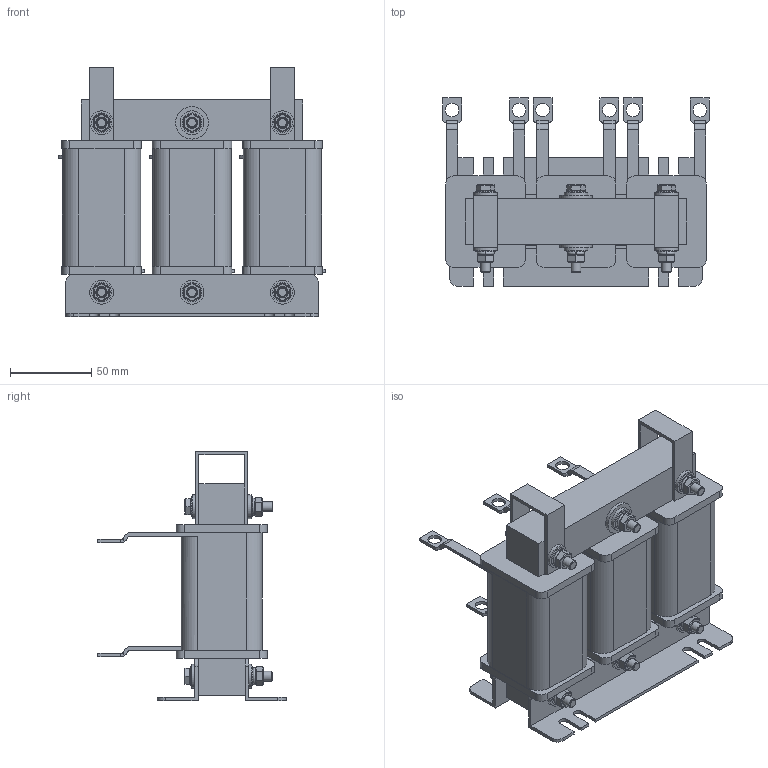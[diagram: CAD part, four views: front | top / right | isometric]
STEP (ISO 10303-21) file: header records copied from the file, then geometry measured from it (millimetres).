
FILE_DESCRIPTION(('STEP AP203'), '1');
FILE_NAME('栖闉罻 _ IMF-11_25-4', '', ('UNSPECIFIED'), ('UNSPECIFIED'), 'ASCON STEP Converter 1.6', 'ASCON Math Kernel', '');
FILE_SCHEMA(('CONFIG_CONTROL_DESIGN'));
Length unit declared in the file: millimetre
Products named in the file (13): IMF-11_25-4
Assembly tree (59 placements, depth 2):
  IMF-11_25-4
    IMF-11_25-4
    IMF-11_25-4  x2
    IMF-11_25-4  x6
    IMF-11_25-4  x3
    IMF-11_25-4
    IMF-11_25-4  x2
    IMF-11_25-4  x2
    IMF-11_25-4  x12
    IMF-11_25-4  x12
    IMF-11_25-4  x6
    IMF-11_25-4  x6
    IMF-11_25-4  x6
Bounding box: 163.6 x 115.5 x 153 mm (x, y, z)
Volume: 819955.3 mm3; surface area: 190030.4 mm2
Topology: 59 solids, 59 shells, 694 faces, 1548 edges, 978 vertices
Faces by surface type: plane 502, cylinder 162, cone 18, torus 12
Full cylindrical faces by diameter (mm): 6 x54, 8.4 x6, 12 x12, 14.6 x12, 20 x2
Entity records: 7105 total; most frequent: CARTESIAN_POINT 1175, DIRECTION 950, ORIENTED_EDGE 786, EDGE_CURVE 393, AXIS2_PLACEMENT_3D 332, LINE 286, VECTOR 286, VERTEX_POINT 269
